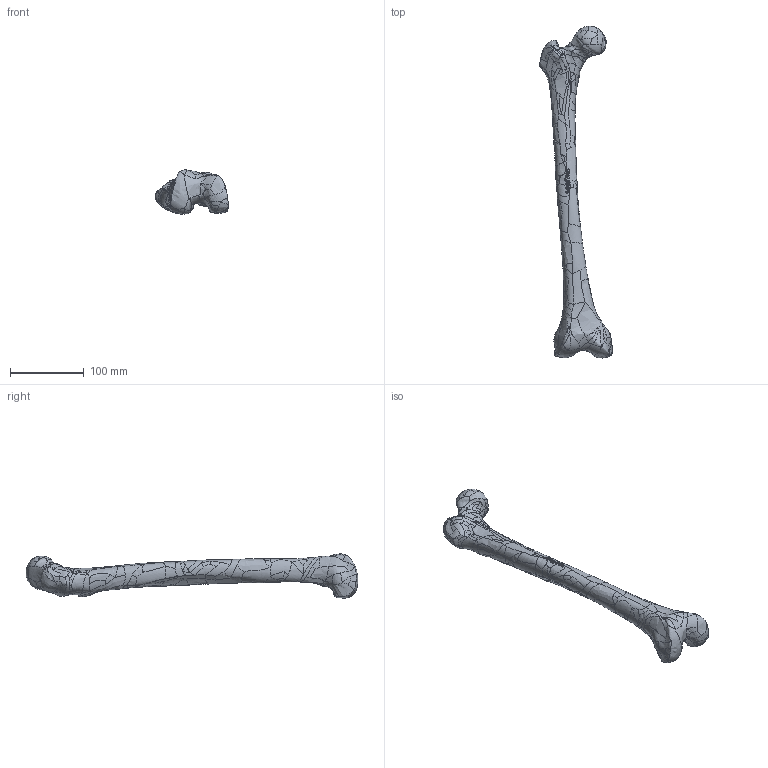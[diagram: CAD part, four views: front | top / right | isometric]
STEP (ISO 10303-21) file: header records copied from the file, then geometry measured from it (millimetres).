
FILE_DESCRIPTION (( 'STEP AP203' ), '1' );
FILE_NAME ('1120-20.STEP', '2025-05-14T13:10:26', ( '' ), ( '' ), 'SwSTEP 2.0', 'SolidWorks 2024', '' );
FILE_SCHEMA (( 'CONFIG_CONTROL_DESIGN' ));
Products named in the file (1): 1120-20
Bounding box: 99.03 x 451.58 x 60.04 mm (x, y, z)
Volume: 509330.3 mm3; surface area: 61280.8 mm2
Topology: 1 solids, 1 shells, 599 faces, 1563 edges, 970 vertices
Faces by surface type: bspline 597, plane 2
Entity records: 1081252 total; most frequent: CARTESIAN_POINT 1071536, ORIENTED_EDGE 3126, EDGE_CURVE 1563, B_SPLINE_CURVE_WITH_KNOTS 1563, VERTEX_POINT 970, EDGE_LOOP 603, ADVANCED_FACE 599, FACE_OUTER_BOUND 599
